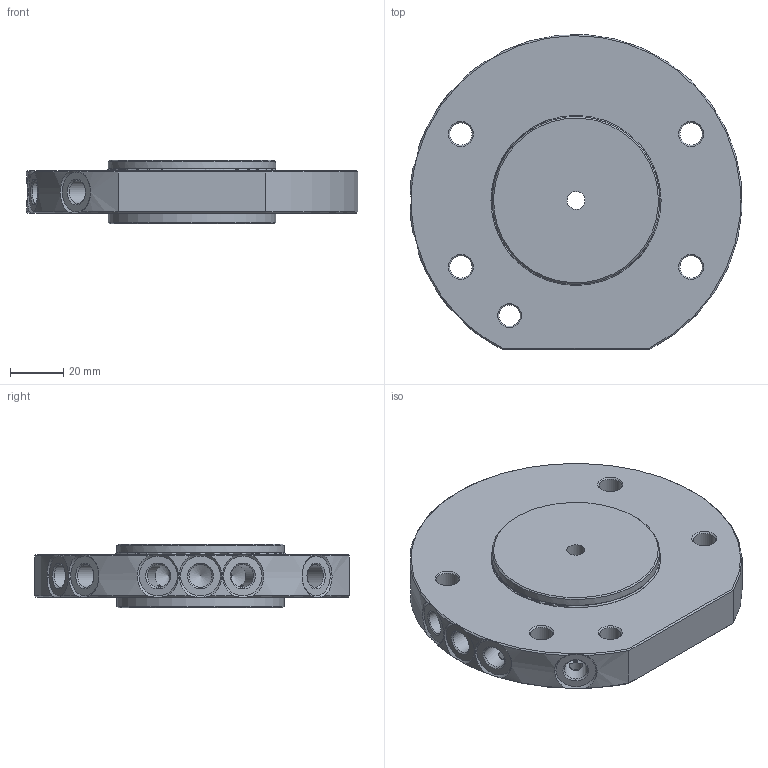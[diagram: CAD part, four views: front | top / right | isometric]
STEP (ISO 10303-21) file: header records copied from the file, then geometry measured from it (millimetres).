
FILE_DESCRIPTION(/* description */ (''),/* implementation_level */ '2;1');
FILE_NAME(/* name */ 'G-ZS125-S6P_Rev.1.01.stp',/* time_stamp */ '2024-08-29T15:20:41+02:00',/* author */ ('ysplieth'),/* organization */ (''),/* preprocessor_version */ 'ST-DEVELOPER v20',/* originating_system */ 'Autodesk Inventor 2024',/* authorisation */ '');
FILE_SCHEMA (('AUTOMOTIVE_DESIGN { 1 0 10303 214 3 1 1 }'));
Length unit declared in the file: millimetre
Products named in the file (1): Bauteil3
Bounding box: 124.77 x 118.39 x 23.95 mm (x, y, z)
Volume: 180353.4 mm3; surface area: 41674.6 mm2
Topology: 2 solids, 2 shells, 106 faces, 258 edges, 161 vertices
Faces by surface type: cone 54, cylinder 32, plane 18, torus 2
Full cylindrical faces by diameter (mm): 5 x6, 6.75 x1, 8 x1, 8.4 x4, 8.7 x6, 45 x1, 61.8 x2, 63 x4
Entity records: 3691 total; most frequent: CARTESIAN_POINT 1013, DIRECTION 537, ORIENTED_EDGE 504, EDGE_CURVE 252, AXIS2_PLACEMENT_3D 233, VERTEX_POINT 161, EDGE_LOOP 143, CIRCLE 126
